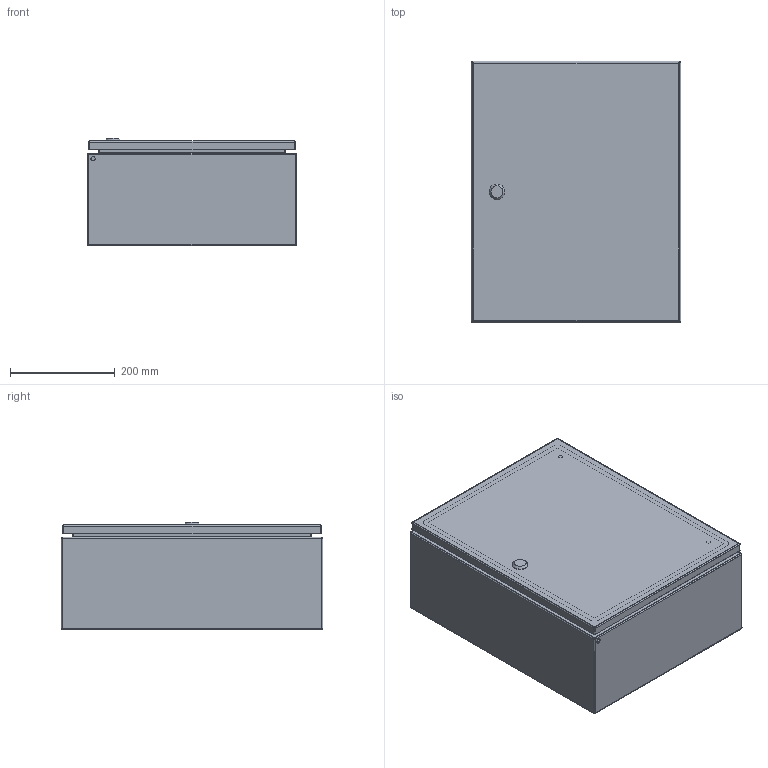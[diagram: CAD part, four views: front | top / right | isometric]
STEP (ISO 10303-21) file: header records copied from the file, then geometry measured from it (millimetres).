
FILE_DESCRIPTION (( 'STEP AP203' ), '1' );
FILE_NAME ('EC040520EE.STEP', '2023-08-31T11:47:25', ( '' ), ( '' ), 'SwSTEP 2.0', 'SolidWorks 2022', '' );
FILE_SCHEMA (( 'CONFIG_CONTROL_DESIGN' ));
Length unit declared in the file: millimetre
Products named in the file (6): AR_EC_EE_porta_singola_0400x0500; AR_EC_EE_involucro_0400x0500x0200; AR_ECOR_X_Piastra_08; AR_EC_EE_chiusura_std_STD; EC040520EE; AR_EC_EE_montaggio_porta_singola_0400x0500
Assembly tree (5 placements, depth 3):
  EC040520EE
    AR_EC_EE_involucro_0400x0500x0200
    AR_ECOR_X_Piastra_08
    AR_EC_EE_montaggio_porta_singola_0400x0500
      AR_EC_EE_porta_singola_0400x0500
      AR_EC_EE_chiusura_std_STD
Bounding box: 400 x 500 x 205 mm (x, y, z)
Volume: 1638897.9 mm3; surface area: 1937015.5 mm2
Topology: 4 solids, 4 shells, 252 faces, 571 edges, 330 vertices
Faces by surface type: cylinder 122, plane 95, sphere 20, cone 6, torus 5, bspline 4
Full cylindrical faces by diameter (mm): 4.5 x8, 5.5 x2, 6 x3, 7 x4, 8 x7, 8.2 x5, 9.5 x4, 10 x8, 14 x4, 30 x1
Entity records: 7562 total; most frequent: CARTESIAN_POINT 1525, DIRECTION 1191, ORIENTED_EDGE 974, EDGE_CURVE 487, AXIS2_PLACEMENT_3D 476, EDGE_LOOP 380, VERTEX_POINT 323, FACE_OUTER_BOUND 299
